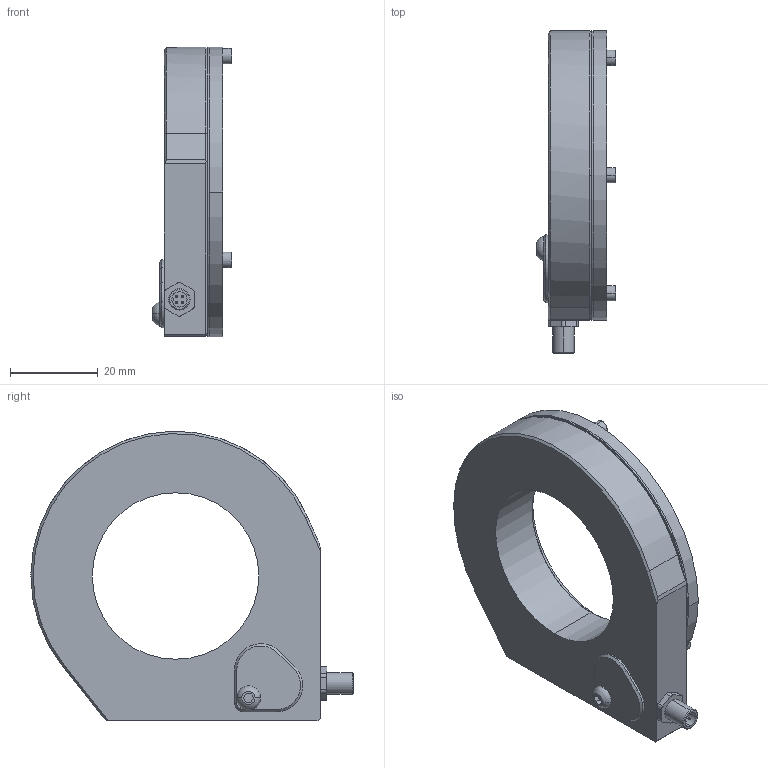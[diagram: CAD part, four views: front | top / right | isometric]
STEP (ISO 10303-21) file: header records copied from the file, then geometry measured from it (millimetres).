
FILE_DESCRIPTION (( 'STEP AP214' ), '1' );
FILE_NAME ('TINYZAD.STEP', '2012-08-13T07:05:17', ( ' ' ), ( '' ), 'SwSTEP 2.0', 'SolidWorks 2009', '' );
FILE_SCHEMA (( 'AUTOMOTIVE_DESIGN' ));
Length unit declared in the file: millimetre
Products named in the file (1): TINYZAD
Bounding box: 18.05 x 73.5 x 66 mm (x, y, z)
Volume: 23878.3 mm3; surface area: 22312 mm2
Topology: 9 solids, 9 shells, 242 faces, 563 edges, 358 vertices
Faces by surface type: plane 100, cylinder 97, cone 23, torus 14, sphere 8
Entity records: 9589 total; most frequent: DIRECTION 1290, CARTESIAN_POINT 1198, ORIENTED_EDGE 1094, EDGE_CURVE 547, AXIS2_PLACEMENT_3D 502, VERTEX_POINT 350, EDGE_LOOP 293, LINE 286
